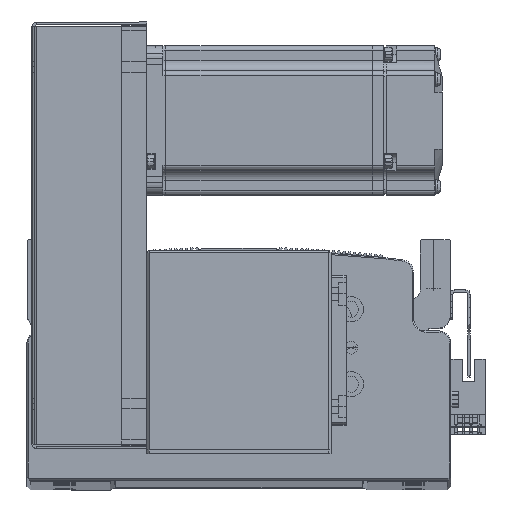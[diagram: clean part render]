
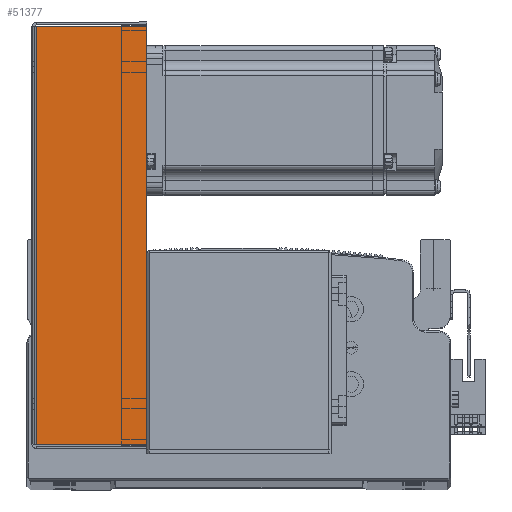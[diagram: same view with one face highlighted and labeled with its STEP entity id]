
A CAD part, top view. The second image highlights one B-rep face of the part: STEP entity #51377.
In plain terms, the highlighted planar face has unit normal (0, 0, 1) as drawn and (0, 0, -1) by its records, which use the part's own axes.
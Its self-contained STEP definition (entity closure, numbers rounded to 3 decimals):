
#15026 = EDGE_LOOP ( 'NONE', ( #32564, #32745, #32593, #32590 ) ) ;
#26336 = VERTEX_POINT ( 'NONE', #40013 ) ;
#26340 = VERTEX_POINT ( 'NONE', #40027 ) ;
#26342 = VERTEX_POINT ( 'NONE', #40007 ) ;
#26386 = VERTEX_POINT ( 'NONE', #40088 ) ;
#32564 = ORIENTED_EDGE ( 'NONE', *, *, #50192, .F. ) ;
#32590 = ORIENTED_EDGE ( 'NONE', *, *, #50101, .F. ) ;
#32593 = ORIENTED_EDGE ( 'NONE', *, *, #50059, .T. ) ;
#32745 = ORIENTED_EDGE ( 'NONE', *, *, #50186, .T. ) ;
#40007 = CARTESIAN_POINT ( 'NONE',  ( 83.793, 45., -40.5 ) ) ;
#40013 = CARTESIAN_POINT ( 'NONE',  ( -83.793, 0.737, -40.5 ) ) ;
#40027 = CARTESIAN_POINT ( 'NONE',  ( -83.793, 45., -40.5 ) ) ;
#40088 = CARTESIAN_POINT ( 'NONE',  ( 83.793, 0.737, -40.5 ) ) ;
#50059 = EDGE_CURVE ( 'NONE', #26340, #26342, #65579, .T. ) ;
#50101 = EDGE_CURVE ( 'NONE', #26386, #26342, #65608, .T. ) ;
#50186 = EDGE_CURVE ( 'NONE', #26336, #26340, #65744, .T. ) ;
#50192 = EDGE_CURVE ( 'NONE', #26336, #26386, #65772, .T. ) ;
#51377 = ADVANCED_FACE ( 'NONE', ( #66218 ), #68827, .F. ) ;
#60660 = AXIS2_PLACEMENT_3D ( 'NONE', #68834, #68829, #68812 ) ;
#65222 = CARTESIAN_POINT ( 'NONE',  ( 83.793, 0., -40.5 ) ) ;
#65246 = DIRECTION ( 'NONE',  ( 0., 1., 0. ) ) ;
#65351 = DIRECTION ( 'NONE',  ( 1., 0., 0. ) ) ;
#65372 = CARTESIAN_POINT ( 'NONE',  ( 84.5, 45., -40.5 ) ) ;
#65529 = VECTOR ( 'NONE', #65351, 1000. ) ;
#65579 = LINE ( 'NONE', #65372, #65529 ) ;
#65608 = LINE ( 'NONE', #65222, #65609 ) ;
#65609 = VECTOR ( 'NONE', #65246, 1000. ) ;
#65744 = LINE ( 'NONE', #67915, #65779 ) ;
#65753 = VECTOR ( 'NONE', #67938, 1000. ) ;
#65772 = LINE ( 'NONE', #67924, #65753 ) ;
#65779 = VECTOR ( 'NONE', #67916, 1000. ) ;
#66218 = FACE_OUTER_BOUND ( 'NONE', #15026, .T. ) ;
#67915 = CARTESIAN_POINT ( 'NONE',  ( -83.793, 0., -40.5 ) ) ;
#67916 = DIRECTION ( 'NONE',  ( 0., 1., 0. ) ) ;
#67924 = CARTESIAN_POINT ( 'NONE',  ( 0., 0.737, -40.5 ) ) ;
#67938 = DIRECTION ( 'NONE',  ( 1., 0., 0. ) ) ;
#68812 = DIRECTION ( 'NONE',  ( 0., -1., 0. ) ) ;
#68827 = PLANE ( 'NONE',  #60660 ) ;
#68829 = DIRECTION ( 'NONE',  ( 0., 0., 1. ) ) ;
#68834 = CARTESIAN_POINT ( 'NONE',  ( 0., 0., -40.5 ) ) ;
